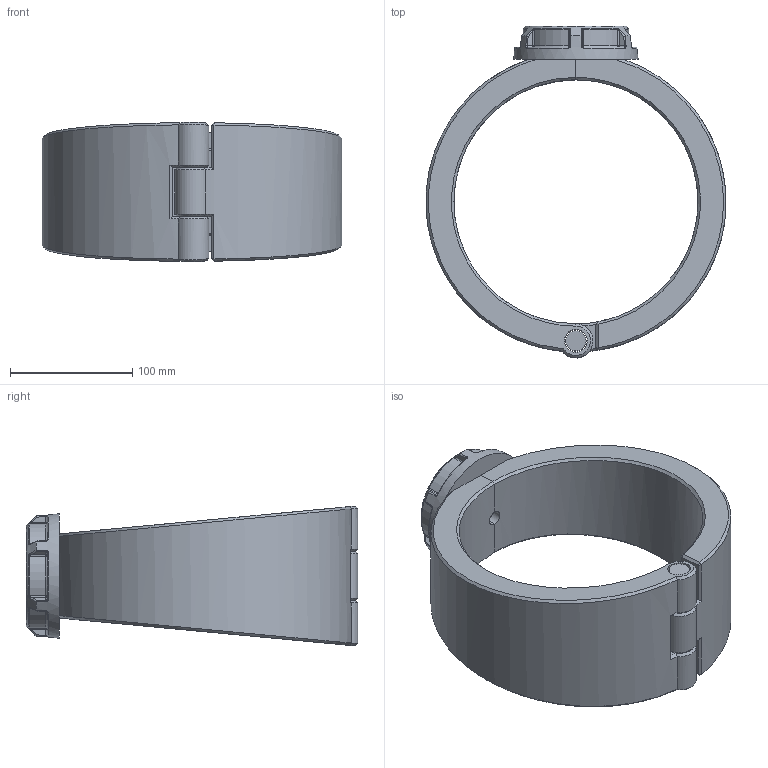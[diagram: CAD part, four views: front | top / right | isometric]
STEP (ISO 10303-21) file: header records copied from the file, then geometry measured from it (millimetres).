
FILE_DESCRIPTION(/* description */ ('Plassadle Threaded 200x1 3/4'''''),/* implementation_level */ '2;1');
FILE_NAME(/* name */ 'C:\Dropbox\KIMPROJECTS-Inventor 2019\99-16-3568-Processing\Mechanical Fittings\16300\stp\163000200007.stp',/* time_stamp */ '2024-08-28T10:31:48+02:00',/* author */ ('comp2'),/* organization */ (''),/* preprocessor_version */ 'ST-DEVELOPER v17.2',/* originating_system */ 'Autodesk Inventor 2019',/* authorisation */ '');
FILE_SCHEMA (('AUTOMOTIVE_DESIGN { 1 0 10303 214 3 1 1 }'));
Length unit declared in the file: millimetre
Products named in the file (1): 163000200007
Bounding box: 245.88 x 271.97 x 114.62 mm (x, y, z)
Volume: 1599998.8 mm3; surface area: 201376.6 mm2
Topology: 4 solids, 4 shells, 203 faces, 486 edges, 293 vertices
Faces by surface type: bspline 58, plane 53, cylinder 47, torus 18, cone 15, sphere 12
Full cylindrical faces by diameter (mm): 12.059 x1, 16.72 x1, 18.72 x3, 20.499 x1, 24.117 x1, 36.175 x1
Entity records: 8292 total; most frequent: CARTESIAN_POINT 3945, ORIENTED_EDGE 972, DIRECTION 781, EDGE_CURVE 486, AXIS2_PLACEMENT_3D 330, VERTEX_POINT 293, EDGE_LOOP 213, FACE_OUTER_BOUND 203
